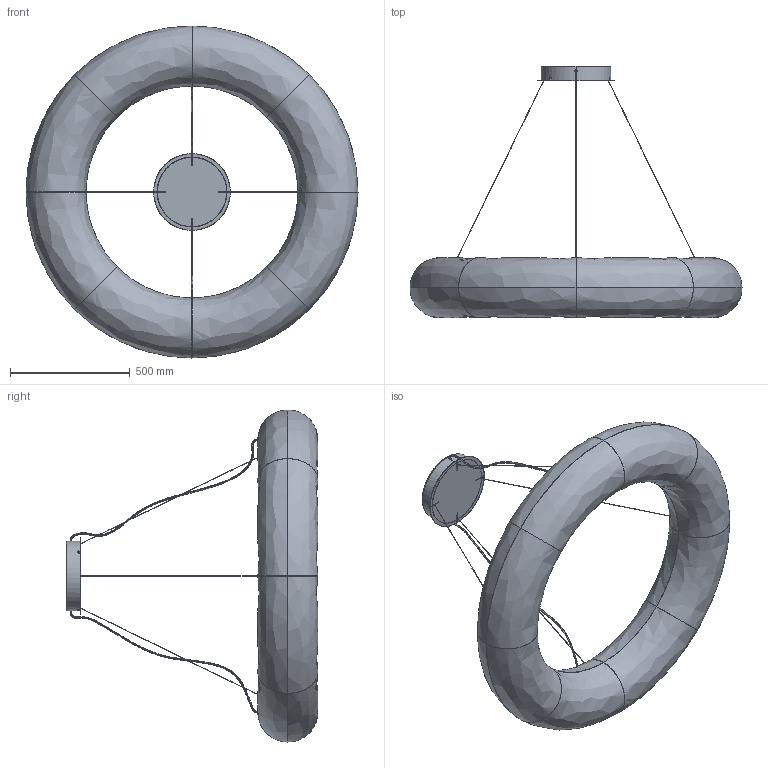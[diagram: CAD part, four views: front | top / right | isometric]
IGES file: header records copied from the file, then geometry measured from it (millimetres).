
Start section: SolidWorks IGES file using analytic representation for surfaces
Global section: file name: C:\SANTACOLE_PDM\Proyectos Catálogo\PROD-P16-018 -- TEKIO\6_Técnico comercial\3D\Tekio Circular\Tekio Circular P8.IGS; native system: SolidWorks 2019; preprocessor: SolidWorks 2019; author: aina.morell; date: 200407.105432; units: millimetre
Bounding box: 1385.4 x 1050.2 x 1385.4 mm (x, y, z)
Surface area: 6063548.2 mm2 (no closed solid volume)
Topology: 0 solids, 0 shells, 217 faces, 5556 edges, 5556 vertices
Faces by surface type: bspline 209, revolution 8
